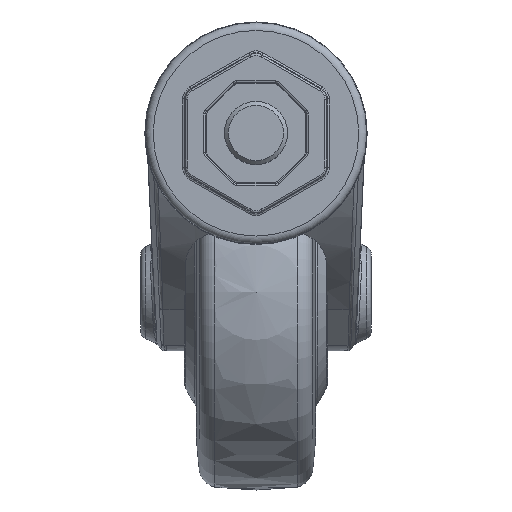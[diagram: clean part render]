
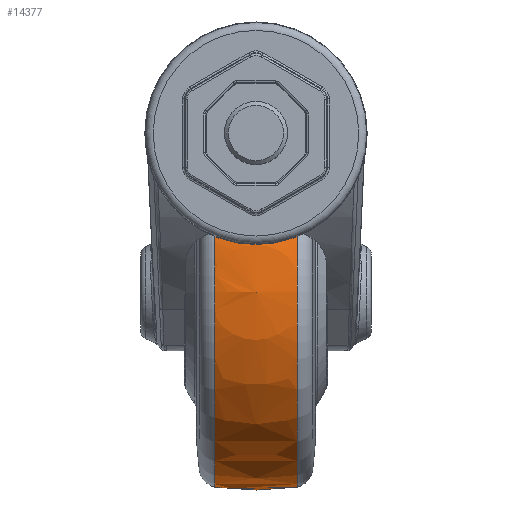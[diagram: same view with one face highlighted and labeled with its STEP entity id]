
A CAD part, top view. The second image highlights one B-rep face of the part: STEP entity #14377.
In plain terms, the highlighted spherical face has radius 50 mm.
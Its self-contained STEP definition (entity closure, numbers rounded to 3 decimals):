
#17=SPHERICAL_SURFACE('',#15381,50.);
#205=FACE_BOUND('',#3392,.T.);
#2511=FACE_OUTER_BOUND('',#3391,.T.);
#3391=EDGE_LOOP('',(#13068,#13069,#13070,#13071,#13072,#13073,#13074));
#3392=EDGE_LOOP('',(#13075,#13076));
#3836=CIRCLE('',#15377,48.918);
#3837=CIRCLE('',#15378,48.918);
#3838=CIRCLE('',#15379,48.918);
#3840=CIRCLE('',#15382,50.);
#3841=CIRCLE('',#15383,50.);
#3842=CIRCLE('',#15384,48.918);
#3843=CIRCLE('',#15385,48.918);
#6394=VERTEX_POINT('',#56274);
#6395=VERTEX_POINT('',#56275);
#6396=VERTEX_POINT('',#56277);
#6397=VERTEX_POINT('',#56282);
#6398=VERTEX_POINT('',#56284);
#6399=VERTEX_POINT('',#56286);
#6400=VERTEX_POINT('',#56287);
#8624=EDGE_CURVE('',#6394,#6395,#3836,.T.);
#8625=EDGE_CURVE('',#6396,#6394,#3837,.T.);
#8626=EDGE_CURVE('',#6395,#6396,#3838,.T.);
#8628=EDGE_CURVE('',#6397,#6395,#3840,.T.);
#8629=EDGE_CURVE('',#6396,#6398,#3841,.T.);
#8630=EDGE_CURVE('',#6399,#6400,#3842,.T.);
#8631=EDGE_CURVE('',#6400,#6399,#3843,.T.);
#13068=ORIENTED_EDGE('',*,*,#8624,.T.);
#13069=ORIENTED_EDGE('',*,*,#8628,.F.);
#13070=ORIENTED_EDGE('',*,*,#8628,.T.);
#13071=ORIENTED_EDGE('',*,*,#8626,.T.);
#13072=ORIENTED_EDGE('',*,*,#8629,.T.);
#13073=ORIENTED_EDGE('',*,*,#8629,.F.);
#13074=ORIENTED_EDGE('',*,*,#8625,.T.);
#13075=ORIENTED_EDGE('',*,*,#8630,.F.);
#13076=ORIENTED_EDGE('',*,*,#8631,.F.);
#14377=ADVANCED_FACE('',(#2511,#205),#17,.T.);
#15377=AXIS2_PLACEMENT_3D('',#56276,#17891,#17892);
#15378=AXIS2_PLACEMENT_3D('',#56278,#17893,#17894);
#15379=AXIS2_PLACEMENT_3D('',#56279,#17895,#17896);
#15381=AXIS2_PLACEMENT_3D('',#56281,#17899,#17900);
#15382=AXIS2_PLACEMENT_3D('',#56283,#17901,#17902);
#15383=AXIS2_PLACEMENT_3D('',#56285,#17903,#17904);
#15384=AXIS2_PLACEMENT_3D('',#56288,#17905,#17906);
#15385=AXIS2_PLACEMENT_3D('',#56289,#17907,#17908);
#17891=DIRECTION('center_axis',(1.,0.,0.));
#17892=DIRECTION('ref_axis',(0.,0.,
1.));
#17893=DIRECTION('center_axis',(1.,0.,0.));
#17894=DIRECTION('ref_axis',(0.,0.,
1.));
#17895=DIRECTION('center_axis',(1.,0.,0.));
#17896=DIRECTION('ref_axis',(0.,0.,
1.));
#17899=DIRECTION('center_axis',(0.,0.,
-1.));
#17900=DIRECTION('ref_axis',(1.,0.,0.));
#17901=DIRECTION('center_axis',(0.,1.,0.));
#17902=DIRECTION('ref_axis',(-1.,0.,0.));
#17903=DIRECTION('center_axis',(0.,1.,0.));
#17904=DIRECTION('ref_axis',(-1.,0.,0.));
#17905=DIRECTION('center_axis',(1.,0.,0.));
#17906=DIRECTION('ref_axis',(0.,0.,
1.));
#17907=DIRECTION('center_axis',(1.,0.,0.));
#17908=DIRECTION('ref_axis',(0.,0.,
1.));
#56274=CARTESIAN_POINT('',(-10.345,-88.918,-88.));
#56275=CARTESIAN_POINT('',(-10.345,-40.,-136.918));
#56276=CARTESIAN_POINT('Origin',(-10.345,-40.,-88.));
#56277=CARTESIAN_POINT('',(-10.345,-40.,-39.082));
#56278=CARTESIAN_POINT('Origin',(-10.345,-40.,-88.));
#56279=CARTESIAN_POINT('Origin',(-10.345,-40.,-88.));
#56281=CARTESIAN_POINT('Origin',(0.,-40.,-88.));
#56282=CARTESIAN_POINT('',(0.,-40.,-138.));
#56283=CARTESIAN_POINT('Origin',(0.,-40.,-88.));
#56284=CARTESIAN_POINT('',(0.,-40.,-38.));
#56285=CARTESIAN_POINT('Origin',(0.,-40.,-88.));
#56286=CARTESIAN_POINT('',(10.345,-88.918,-88.));
#56287=CARTESIAN_POINT('',(10.345,-40.,-136.918));
#56288=CARTESIAN_POINT('Origin',(10.345,-40.,-88.));
#56289=CARTESIAN_POINT('Origin',(10.345,-40.,-88.));
